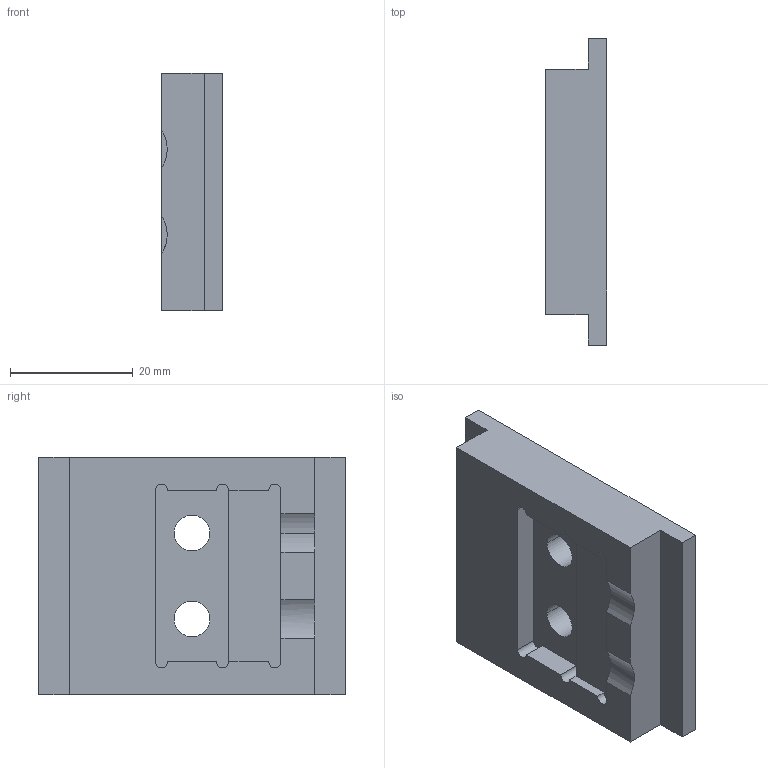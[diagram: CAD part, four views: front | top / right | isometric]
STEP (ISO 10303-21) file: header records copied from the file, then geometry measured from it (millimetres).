
FILE_DESCRIPTION(('CATIA V5 STEP Exchange'),'2;1');
FILE_NAME('D:\姚明阳\1、工装图纸\2、腰托阀（开关）治具工装 -2022.11.26更新\AGZL02 腰托阀压钢珠工装2\AGZL02 设计文件（pdf+stp）\AGZL02.03_V2.stp','2022-12-28T02:15:24+00:00',('none'),('none'),'CATIA Version 5 Release 21 GA (IN-10)','CATIA V5 STEP AP214','none');
FILE_SCHEMA(('AUTOMOTIVE_DESIGN { 1 0 10303 214 1 1 1 1 }'));
Length unit declared in the file: millimetre
Products named in the file (1): AGZL02.03_V1
Bounding box: 10 x 50 x 38.8 mm (x, y, z)
Volume: 14678 mm3; surface area: 5969.5 mm2
Topology: 1 solids, 1 shells, 33 faces, 92 edges, 61 vertices
Faces by surface type: plane 20, cylinder 13
Entity records: 1033 total; most frequent: ORIENTED_EDGE 184, CARTESIAN_POINT 180, DIRECTION 144, EDGE_CURVE 92, VECTOR 65, LINE 65, VERTEX_POINT 61, AXIS2_PLACEMENT_3D 54
